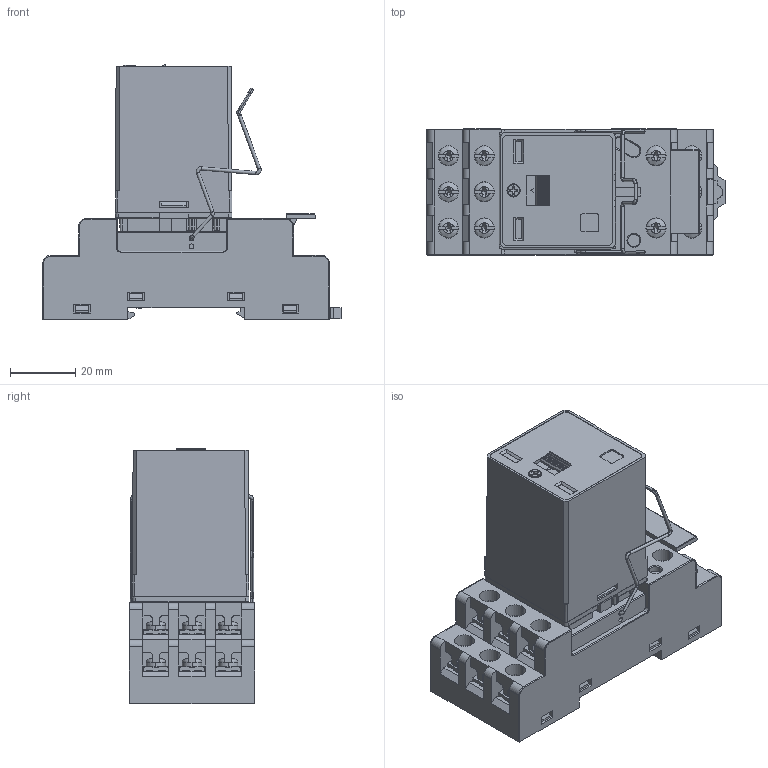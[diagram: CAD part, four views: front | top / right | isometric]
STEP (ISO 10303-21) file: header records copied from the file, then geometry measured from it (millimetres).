
FILE_DESCRIPTION (( 'STEP AP214' ), '1' );
FILE_NAME ('3. IR-3CO_IR-B3-SC_IR-RB-3_IR-MP-2+ñêîáà.STEP', '2023-06-08T09:39:59', ( '' ), ( '' ), 'SwSTEP 2.0', 'SolidWorks 2022', '' );
FILE_SCHEMA (( 'AUTOMOTIVE_DESIGN' ));
Length unit declared in the file: millimetre
Products named in the file (5): IR-B3-SC; IR-MP-2 (DKC); 3. IR-3CO_IR-B3-SC_IR-RB-3_IR-MP-2+скоба; скоба; IR-3CO
Assembly tree (4 placements, depth 2):
  3. IR-3CO_IR-B3-SC_IR-RB-3_IR-MP-2+скоба
    IR-B3-SC
    IR-3CO
    IR-MP-2 (DKC)
    скоба
Bounding box: 91.6 x 38.7 x 78.4 mm (x, y, z)
Volume: 135447.4 mm3; surface area: 39686.6 mm2
Topology: 4 solids, 21 shells, 2464 faces, 6750 edges, 4371 vertices
Faces by surface type: plane 1737, cylinder 362, bspline 203, cone 134, torus 28
Entity records: 96128 total; most frequent: CARTESIAN_POINT 35763, ORIENTED_EDGE 13456, DIRECTION 11051, EDGE_CURVE 6728, LINE 4715, VECTOR 4715, VERTEX_POINT 4371, AXIS2_PLACEMENT_3D 3168
